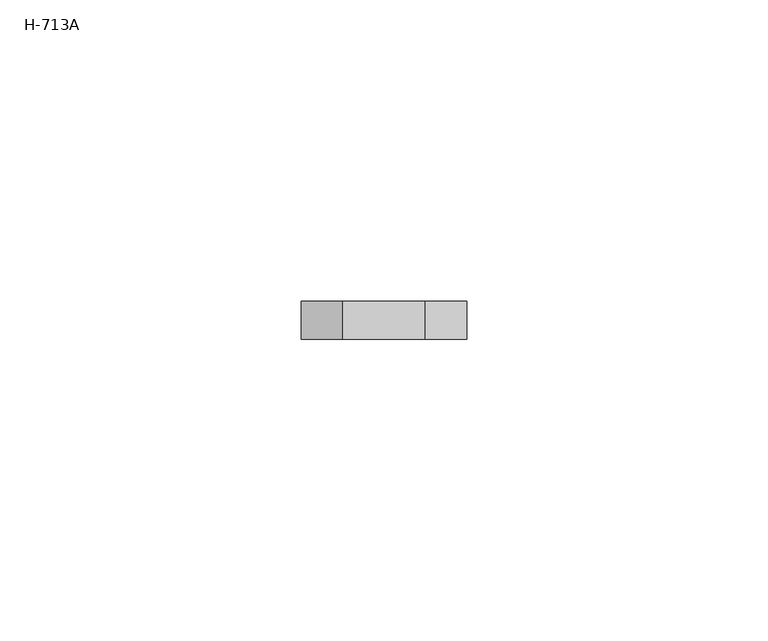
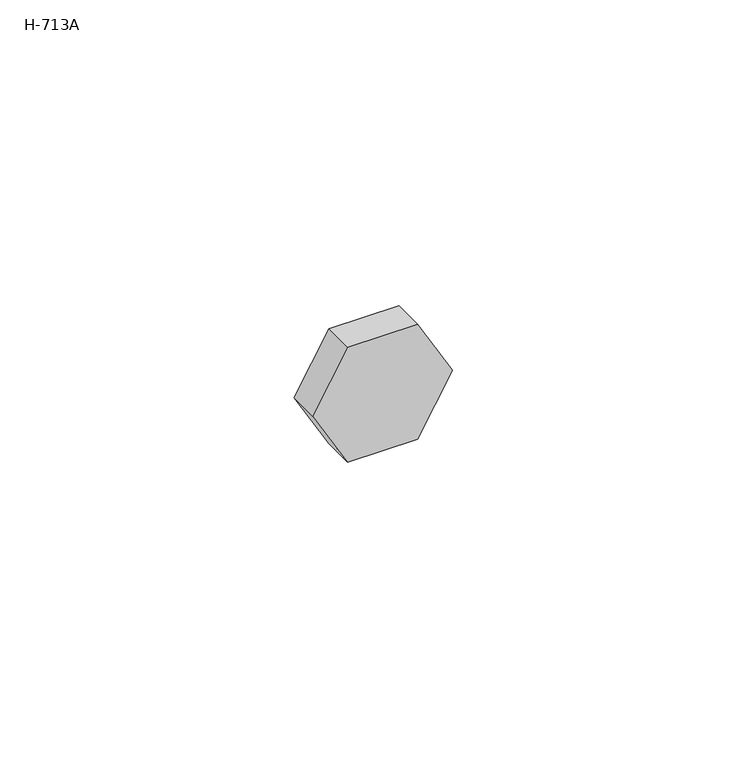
"""IFC4 building model written with IfcOpenShell, lengths in millimetres: proxy geometry, H-713A."""

from ifc_helpers import new_model, si_unit, frame, origin, place, context, project, spatial, polyline, outline, extrude, source, transform, mapped, element, save


def h_713a_4b53aa21(model_context):
    return source(origin(), model_context, "Body", "SweptSolid", [
        extrude(outline(polyline([(-11.90625, -6.8740766), (-11.90625, 6.8740766), (0.0, 13.7481533), (11.90625, 6.8740766), (11.90625, -6.8740766), (0.0, -13.7481533), (-11.90625, -6.8740766)])), frame((0.0, 0.0, 0.0), z_axis=(0.0, 1.0, 0.0), x_axis=(0.0, 0.0, 1.0)), (0.0, 0.0, 1.0), 6.35),
    ])


if __name__ == "__main__":
    model = new_model("IFC4")
    model_context = context("Model", 3, world=origin())
    ifc_project = project(units=[si_unit("LENGTHUNIT", "METRE", prefix="MILLI")], contexts=[model_context])
    site = spatial("IfcSite", under=ifc_project)
    building = spatial("IfcBuilding", under=site)
    placement = place(None, origin())
    h_713a_shape = h_713a_4b53aa21(model_context)
    element("IfcBuildingElementProxy", 1, Name="H-713A", ObjectType="H-713A", at=placement, inside=building, context=model_context, shape_type="MappedRepresentation", body=[
        mapped(h_713a_shape, transform((0.0, 0.0, 0.0), x_axis=(1.0, 0.0, 0.0), y_axis=(0.0, 1.0, 0.0), z_axis=(0.0, 0.0, 1.0))),
    ])
    save(model, "model.ifc")
